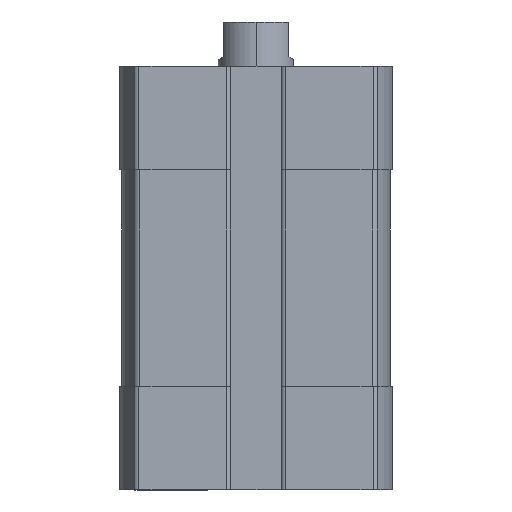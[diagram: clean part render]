
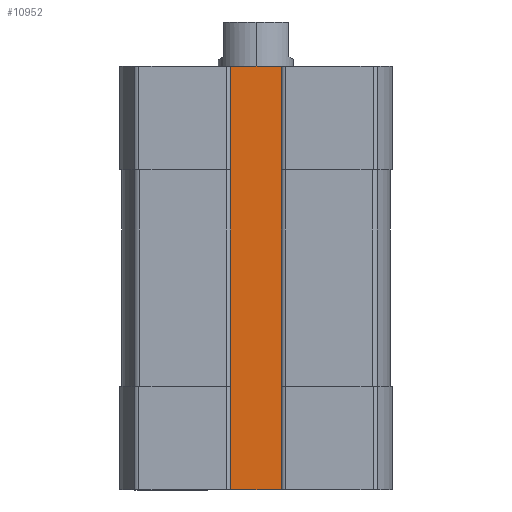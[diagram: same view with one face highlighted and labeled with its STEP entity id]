
A CAD part, left-side view. The second image highlights one B-rep face of the part: STEP entity #10952.
In plain terms, the highlighted planar face has unit normal (-1, 0, 0).
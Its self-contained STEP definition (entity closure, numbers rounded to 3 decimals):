
#101 = FACE_OUTER_BOUND ( 'NONE', #6101, .T. ) ;
#412 = DIRECTION ( 'NONE',  ( 0., -1., 0. ) ) ;
#469 = DIRECTION ( 'NONE',  ( -1., 0., 0. ) ) ;
#482 = VECTOR ( 'NONE', #412, 1000. ) ;
#562 = VERTEX_POINT ( 'NONE', #1607 ) ;
#1607 = CARTESIAN_POINT ( 'NONE',  ( -9.3, 3., -45. ) ) ;
#2047 = ORIENTED_EDGE ( 'NONE', *, *, #6707, .T. ) ;
#2655 = VERTEX_POINT ( 'NONE', #5469 ) ;
#2824 = LINE ( 'NONE', #5731, #482 ) ;
#3061 = CARTESIAN_POINT ( 'NONE',  ( -9.3, -3.1, 0. ) ) ;
#3558 = AXIS2_PLACEMENT_3D ( 'NONE', #6620, #469, #6649 ) ;
#3793 = VECTOR ( 'NONE', #7759, 1000. ) ;
#5436 = EDGE_CURVE ( 'NONE', #2655, #562, #10894, .T. ) ;
#5469 = CARTESIAN_POINT ( 'NONE',  ( -9.3, 3., 0. ) ) ;
#5541 = ORIENTED_EDGE ( 'NONE', *, *, #5436, .T. ) ;
#5645 = VERTEX_POINT ( 'NONE', #8117 ) ;
#5731 = CARTESIAN_POINT ( 'NONE',  ( -9.3, 3., -45. ) ) ;
#5808 = EDGE_CURVE ( 'NONE', #2655, #5645, #6009, .T. ) ;
#6009 = LINE ( 'NONE', #3061, #10172 ) ;
#6101 = EDGE_LOOP ( 'NONE', ( #7465, #2047, #7937, #5541 ) ) ;
#6620 = CARTESIAN_POINT ( 'NONE',  ( -9.3, 3., -45. ) ) ;
#6649 = DIRECTION ( 'NONE',  ( 0., 0., 1. ) ) ;
#6707 = EDGE_CURVE ( 'NONE', #6739, #5645, #9170, .T. ) ;
#6739 = VERTEX_POINT ( 'NONE', #10115 ) ;
#6811 = VECTOR ( 'NONE', #7403, 1000. ) ;
#7279 = EDGE_CURVE ( 'NONE', #562, #6739, #2824, .T. ) ;
#7403 = DIRECTION ( 'NONE',  ( 0., 0., 1. ) ) ;
#7465 = ORIENTED_EDGE ( 'NONE', *, *, #7279, .T. ) ;
#7490 = DIRECTION ( 'NONE',  ( 0., -1., 0. ) ) ;
#7759 = DIRECTION ( 'NONE',  ( 0., 0., -1. ) ) ;
#7937 = ORIENTED_EDGE ( 'NONE', *, *, #5808, .F. ) ;
#8117 = CARTESIAN_POINT ( 'NONE',  ( -9.3, -3., 0. ) ) ;
#8295 = CARTESIAN_POINT ( 'NONE',  ( -9.3, -3., -45. ) ) ;
#9170 = LINE ( 'NONE', #8295, #6811 ) ;
#9286 = PLANE ( 'NONE',  #3558 ) ;
#9535 = CARTESIAN_POINT ( 'NONE',  ( -9.3, 3., -45. ) ) ;
#10115 = CARTESIAN_POINT ( 'NONE',  ( -9.3, -3., -45. ) ) ;
#10172 = VECTOR ( 'NONE', #7490, 1000. ) ;
#10894 = LINE ( 'NONE', #9535, #3793 ) ;
#10952 = ADVANCED_FACE ( 'NONE', ( #101 ), #9286, .T. ) ;
